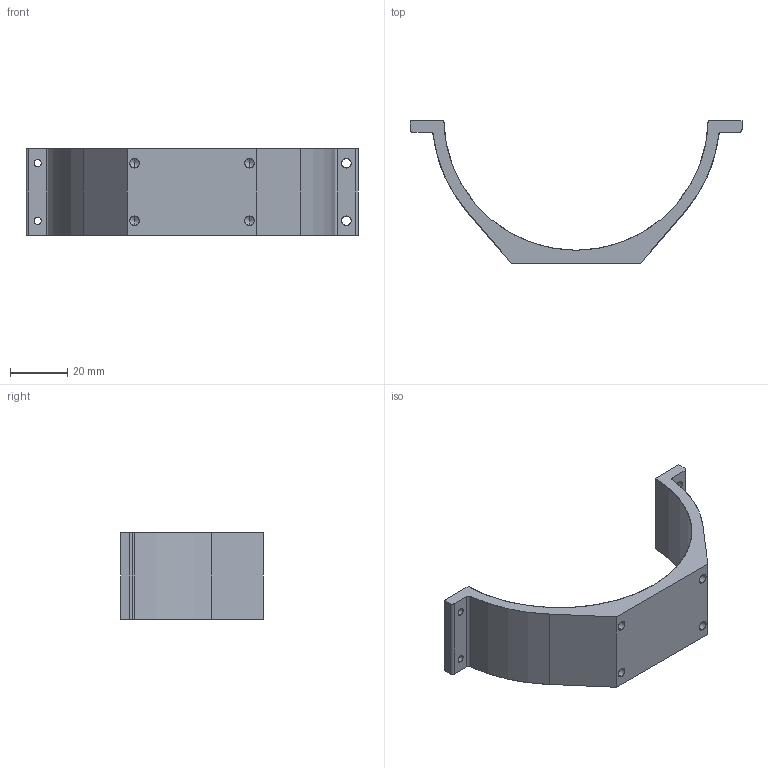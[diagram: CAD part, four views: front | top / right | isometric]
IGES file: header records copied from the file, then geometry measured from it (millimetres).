
Start section: SolidWorks IGES file using analytic representation for surfaces
Global section: file name: C:\Users\Adam\Desktop\Clamps\WTE3-M-CLAMP-R1.IGS; native system: SolidWorks 2014; preprocessor: SolidWorks 2014; author: Adam; date: 161107.162917; units: millimetre
Bounding box: 115.57 x 49.5 x 30 mm (x, y, z)
Surface area: 12310.2 mm2 (no closed solid volume)
Topology: 0 solids, 0 shells, 42 faces, 706 edges, 698 vertices
Faces by surface type: revolution 31, bspline 11
